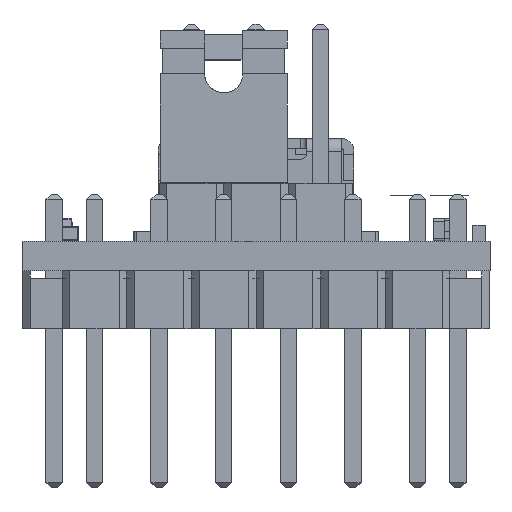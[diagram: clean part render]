
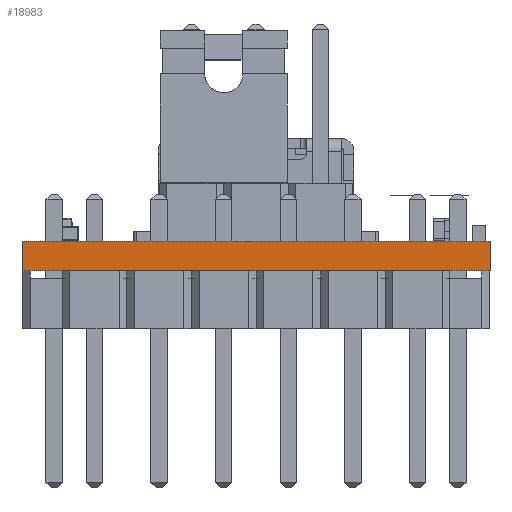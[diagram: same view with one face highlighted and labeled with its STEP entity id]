
A CAD part, front view. The second image highlights one B-rep face of the part: STEP entity #18983.
In plain terms, the highlighted planar face has unit normal (0, -1, 0).
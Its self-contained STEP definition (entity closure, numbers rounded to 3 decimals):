
#5393 = EDGE_LOOP ( 'NONE', ( #106551, #50245, #46757, #56679 ) ) ;
#6151 = VERTEX_POINT ( 'NONE', #80026 ) ;
#8386 = DIRECTION ( 'NONE',  ( 0., 0., -1. ) ) ;
#13478 = CARTESIAN_POINT ( 'NONE',  ( -9.2, -12.5, 0. ) ) ;
#18983 = ADVANCED_FACE ( 'NONE', ( #44738 ), #55202, .T. ) ;
#19564 = CARTESIAN_POINT ( 'NONE',  ( -9.2, -12.5, 1.16 ) ) ;
#29690 = DIRECTION ( 'NONE',  ( 0., -1., 0. ) ) ;
#33063 = VECTOR ( 'NONE', #48311, 1000. ) ;
#34276 = DIRECTION ( 'NONE',  ( 1., 0., 0. ) ) ;
#37861 = LINE ( 'NONE', #19564, #33063 ) ;
#44158 = LINE ( 'NONE', #13478, #92525 ) ;
#44198 = EDGE_CURVE ( 'NONE', #102761, #92379, #37861, .T. ) ;
#44738 = FACE_OUTER_BOUND ( 'NONE', #5393, .T. ) ;
#46757 = ORIENTED_EDGE ( 'NONE', *, *, #92905, .F. ) ;
#48311 = DIRECTION ( 'NONE',  ( 1., 0., 0. ) ) ;
#49569 = LINE ( 'NONE', #108609, #123205 ) ;
#50245 = ORIENTED_EDGE ( 'NONE', *, *, #120251, .T. ) ;
#53422 = EDGE_CURVE ( 'NONE', #64389, #102761, #44158, .T. ) ;
#55202 = PLANE ( 'NONE',  #99554 ) ;
#56679 = ORIENTED_EDGE ( 'NONE', *, *, #44198, .F. ) ;
#64389 = VERTEX_POINT ( 'NONE', #107103 ) ;
#80026 = CARTESIAN_POINT ( 'NONE',  ( 9.2, -12.5, 0. ) ) ;
#92379 = VERTEX_POINT ( 'NONE', #124536 ) ;
#92525 = VECTOR ( 'NONE', #104518, 1000. ) ;
#92905 = EDGE_CURVE ( 'NONE', #92379, #6151, #49569, .T. ) ;
#95197 = CARTESIAN_POINT ( 'NONE',  ( 9.2, -12.5, 0. ) ) ;
#99554 = AXIS2_PLACEMENT_3D ( 'NONE', #107642, #29690, #127937 ) ;
#102761 = VERTEX_POINT ( 'NONE', #118959 ) ;
#104518 = DIRECTION ( 'NONE',  ( 0., 0., 1. ) ) ;
#106551 = ORIENTED_EDGE ( 'NONE', *, *, #53422, .F. ) ;
#107103 = CARTESIAN_POINT ( 'NONE',  ( -9.2, -12.5, 0. ) ) ;
#107642 = CARTESIAN_POINT ( 'NONE',  ( 9.2, -12.5, 0. ) ) ;
#108609 = CARTESIAN_POINT ( 'NONE',  ( 9.2, -12.5, 0. ) ) ;
#112919 = LINE ( 'NONE', #95197, #113478 ) ;
#113478 = VECTOR ( 'NONE', #34276, 1000. ) ;
#118959 = CARTESIAN_POINT ( 'NONE',  ( -9.2, -12.5, 1.16 ) ) ;
#120251 = EDGE_CURVE ( 'NONE', #64389, #6151, #112919, .T. ) ;
#123205 = VECTOR ( 'NONE', #8386, 1000. ) ;
#124536 = CARTESIAN_POINT ( 'NONE',  ( 9.2, -12.5, 1.16 ) ) ;
#127937 = DIRECTION ( 'NONE',  ( 0., 0., -1. ) ) ;
